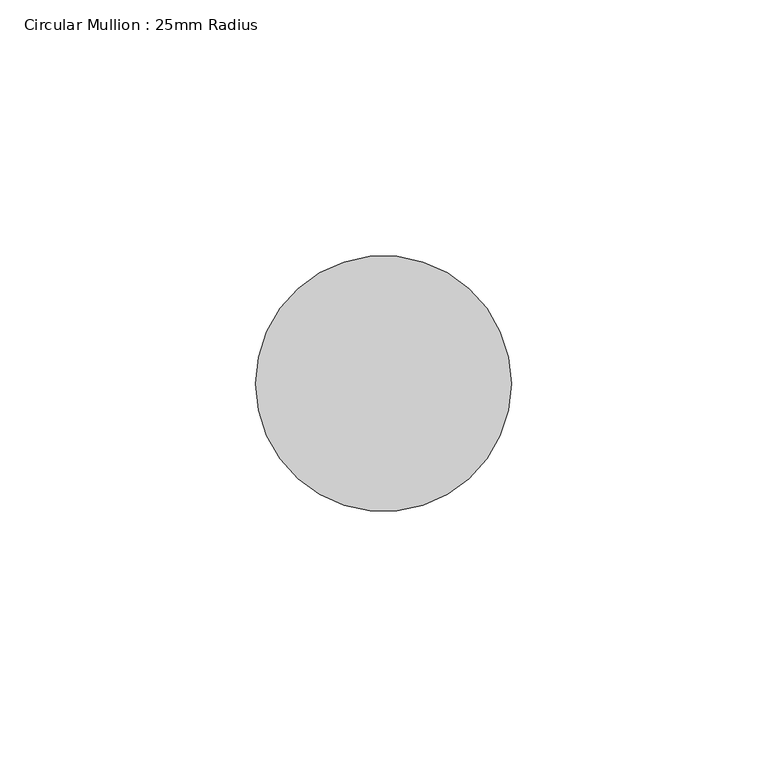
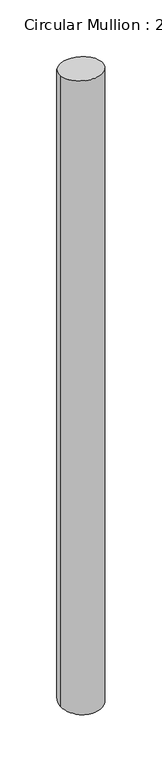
"""IFC4 building model written with IfcOpenShell, lengths in millimetres: member geometry, Circular Mullion : 25mm Radius."""

import ifcopenshell
import ifcopenshell.guid

model = None  # the IFC model being written
_history = None  # IfcOwnerHistory: only IFC2X3 demands one
_inside = {}  # id of a spatial element -> (the spatial element, [elements in it])
_under = {}  # id of a project, library or spatial element -> (it, [spatial elements below it])
_declared = {}  # id of a project -> (the project, [libraries it declares])
_typed = {}  # id of a type object -> (the type object, [elements of that type])
_made_of = {}  # id of a material, layer set ... -> (it, [elements and type objects made of it])


def new_model(schema):
    """Start an empty IFC model of exactly this schema.

    Asked for "IFC4X3", IfcOpenShell would pick the latest addendum, in which some entities
    have other attributes; the version numbers below select the first issue.
    IFC2X3 requires an IfcOwnerHistory on every rooted entity: one is made here for all.
    """
    global model, _history
    if schema == "IFC4X3":
        model = ifcopenshell.file(schema_version=(4, 3, 0, 0))
    else:
        model = ifcopenshell.file(schema=schema)
    _inside.clear()
    _under.clear()
    _declared.clear()
    _typed.clear()
    _made_of.clear()
    _history = None
    if model.schema == "IFC2X3":
        org = make("IfcOrganization", Name="unknown")
        user = make(
            "IfcPersonAndOrganization",
            ThePerson=make("IfcPerson", FamilyName="unknown"),
            TheOrganization=org,
        )
        app = make(
            "IfcApplication",
            ApplicationDeveloper=org,
            Version="unknown",
            ApplicationFullName="unknown",
            ApplicationIdentifier="unknown",
        )
        _history = make(
            "IfcOwnerHistory",
            OwningUser=user,
            OwningApplication=app,
            ChangeAction="ADDED",
            CreationDate=0,
        )
    return model


def make(cls, **values):
    """One entity of the class cls with the attributes given. An attribute that is None is left unset."""
    return model.create_entity(
        cls, **{name: value for name, value in values.items() if value is not None}
    )


def rooted(cls, **values):
    """An entity with a GlobalId (a new one), such as an element, a storey or a relation."""
    return make(cls, GlobalId=ifcopenshell.guid.new(), OwnerHistory=_history, **values)


def si_unit(unit_type, name, prefix=None):
    """IfcSIUnit, for example si_unit("LENGTHUNIT", "METRE", prefix="MILLI")."""
    return make("IfcSIUnit", UnitType=unit_type, Prefix=prefix, Name=name)


def assignment(units):
    """IfcUnitAssignment: the units of a project."""
    return None if units is None else make("IfcUnitAssignment", Units=units)


def point(xyz):
    """IfcCartesianPoint."""
    return None if xyz is None else make("IfcCartesianPoint", Coordinates=xyz)


def direction(xyz):
    """IfcDirection."""
    return None if xyz is None else make("IfcDirection", DirectionRatios=xyz)


def frame(location, z_axis=None, x_axis=None):
    """IfcAxis2Placement3D, a coordinate frame: its origin and axes. An axis left out is left unset."""
    return make(
        "IfcAxis2Placement3D",
        Location=point(location),
        Axis=direction(z_axis),
        RefDirection=direction(x_axis),
    )


def origin():
    """The frame at (0, 0, 0) with its axes left unset."""
    return frame((0.0, 0.0, 0.0))


def place(relative_to, where):
    """IfcLocalPlacement: puts the frame where relative to a parent placement (None: the world)."""
    return make(
        "IfcLocalPlacement", PlacementRelTo=relative_to, RelativePlacement=where
    )


def context(
    kind, dimensions, precision=None, world=None, true_north=None, identifier=None
):
    """IfcGeometricRepresentationContext, for example the 3D "Model" context."""
    return make(
        "IfcGeometricRepresentationContext",
        ContextIdentifier=identifier,
        ContextType=kind,
        CoordinateSpaceDimension=dimensions,
        Precision=precision,
        WorldCoordinateSystem=world,
        TrueNorth=true_north,
    )


def project(units=None, contexts=None):
    """IfcProject with its units and contexts."""
    return rooted(
        "IfcProject",
        Name="project",
        RepresentationContexts=contexts,
        UnitsInContext=assignment(units),
    )


def spatial(cls, under=None, at=None, **own):
    """A site, building, storey or space (cls), placed at a placement, below another one or the project."""
    s = rooted(cls, ObjectPlacement=at, **own)
    if under is not None:
        _under.setdefault(under.id(), (under, []))[1].append(s)
    return s


def ellipse_curve(where, semi_axis1, semi_axis2):
    """IfcEllipse in the frame where."""
    return make(
        "IfcEllipse", Position=where, SemiAxis1=semi_axis1, SemiAxis2=semi_axis2
    )


def shape(context_of_items, identifier, shape_type, items):
    """IfcShapeRepresentation: the items that make up one representation, for example the "Body"."""
    return make(
        "IfcShapeRepresentation",
        ContextOfItems=context_of_items,
        RepresentationIdentifier=identifier,
        RepresentationType=shape_type,
        Items=items,
    )


def source(mapping_origin, context_of_items, identifier, shape_type, items):
    """IfcRepresentationMap: a shape defined once, which mapped items show again and again."""
    return make(
        "IfcRepresentationMap",
        MappingOrigin=mapping_origin,
        MappedRepresentation=shape(context_of_items, identifier, shape_type, items),
    )


def transform(
    local_origin,
    x_axis=None,
    y_axis=None,
    z_axis=None,
    scale=None,
    scale2=None,
    scale3=None,
    uniform=True,
):
    """IfcCartesianTransformationOperator3D, or its non-uniform kind. x_axis, y_axis, z_axis: its Axis1, 2, 3."""
    if uniform:
        return make(
            "IfcCartesianTransformationOperator3D",
            Axis1=direction(x_axis),
            Axis2=direction(y_axis),
            LocalOrigin=point(local_origin),
            Scale=scale,
            Axis3=direction(z_axis),
        )
    return make(
        "IfcCartesianTransformationOperator3DnonUniform",
        Axis1=direction(x_axis),
        Axis2=direction(y_axis),
        LocalOrigin=point(local_origin),
        Scale=scale,
        Axis3=direction(z_axis),
        Scale2=scale2,
        Scale3=scale3,
    )


def mapped(mapping_source, mapping_target):
    """IfcMappedItem: shows the shape of a source again, moved by a transform."""
    return make(
        "IfcMappedItem", MappingSource=mapping_source, MappingTarget=mapping_target
    )


def made_of(thing, what):
    """Note that an element or type object is made of a material, layer set ...; save() writes the relation."""
    if what is not None:
        _made_of.setdefault(what.id(), (what, []))[1].append(thing)
    return thing


def element(
    cls,
    number,
    at=None,
    inside=None,
    cuts=None,
    type_object=None,
    material=None,
    context=None,
    identifier="Body",
    shape_type=None,
    held_by="IfcProductDefinitionShape",
    body=None,
    shapes=None,
    **own,
):
    """One element of the class cls, such as IfcWall. Its Tag is "e" and its number.

    at: its placement. inside: the storey or other place that contains it. cuts: it is an
    opening in that element (IfcRelVoidsElement). A single representation is given by context,
    identifier, shape_type and body (its items); several are given by shapes. held_by: the class
    of the entity that holds the representations. save() writes the other relations.
    """
    e = rooted(cls, Tag="e%d" % number, ObjectPlacement=at, **own)
    if body is not None:
        shapes = [shape(context, identifier, shape_type, body)]
    if shapes is not None:
        e.Representation = make(held_by, Representations=shapes)
    if inside is not None:
        _inside.setdefault(inside.id(), (inside, []))[1].append(e)
    if cuts is not None:
        rooted(
            "IfcRelVoidsElement", RelatingBuildingElement=cuts, RelatedOpeningElement=e
        )
    if type_object is not None:
        _typed.setdefault(type_object.id(), (type_object, []))[1].append(e)
    return made_of(e, material)


def aggregate(whole, parts):
    """IfcRelAggregates: a whole, such as a stair, and the parts it consists of."""
    return rooted("IfcRelAggregates", RelatingObject=whole, RelatedObjects=parts)


def save(model, path):
    """Write the relations noted so far, then the file.

    IfcRelAggregates (storeys below a building ...), IfcRelContainedInSpatialStructure (elements
    in a storey), IfcRelDefinesByType, IfcRelAssociatesMaterial and IfcRelDeclares: one each for
    every whole, place, type object, material and project.
    """
    for whole, parts in _under.values():
        aggregate(whole, parts)
    for where, things in _inside.values():
        rooted(
            "IfcRelContainedInSpatialStructure",
            RelatedElements=things,
            RelatingStructure=where,
        )
    for kind, things in _typed.values():
        rooted("IfcRelDefinesByType", RelatedObjects=things, RelatingType=kind)
    for what, things in _made_of.values():
        rooted("IfcRelAssociatesMaterial", RelatedObjects=things, RelatingMaterial=what)
    for by, libraries in _declared.values():
        rooted("IfcRelDeclares", RelatingContext=by, RelatedDefinitions=libraries)
    model.write(path)


def plane_surface(at):
    """IfcPlane: the flat surface through the origin of the frame at, square to its z axis."""
    return make("IfcPlane", Position=at)


def cylinder_surface(at, radius):
    """IfcCylindricalSurface: all points at the distance radius from the z axis of the frame at."""
    return make("IfcCylindricalSurface", Position=at, Radius=radius)


def advanced_brep(points, edges, surfaces, faces):
    """IfcAdvancedBrep: a solid bounded by faces that lie on surfaces and meet in shared edges.

    An edge is (start, end): straight between two places in points (the first is 0);
    or (start, end, curve); or (start, end, curve, False) where it runs against its curve.
    A face is (place in surfaces, loops), or (place, loops, False) where it looks against
    its surface's normal. A loop lists edges by number (the first is 1), with a minus sign
    where the edge is run from its end to its start. The first loop is the outer one.
    """
    corners = [point(p) for p in points]
    vertices = [make("IfcVertexPoint", VertexGeometry=c) for c in corners]
    made = []
    for start, end, *more in edges:
        made.append(
            make(
                "IfcEdgeCurve",
                EdgeStart=vertices[start],
                EdgeEnd=vertices[end],
                EdgeGeometry=more[0] if more else make("IfcPolyline", Points=[corners[start], corners[end]]),
                SameSense=more[1] if len(more) > 1 else True,
            )
        )
    hull = []
    for where, loops, *sense in faces:
        bounds = []
        for j, loop in enumerate(loops):
            ring = [make("IfcOrientedEdge", EdgeElement=made[abs(k) - 1], Orientation=k > 0) for k in loop]
            bounds.append(
                make(
                    "IfcFaceOuterBound" if j == 0 else "IfcFaceBound",
                    Bound=make("IfcEdgeLoop", EdgeList=ring),
                    Orientation=True,
                )
            )
        hull.append(make("IfcAdvancedFace", Bounds=bounds, FaceSurface=surfaces[where], SameSense=sense[0] if sense else True))
    return make("IfcAdvancedBrep", Outer=make("IfcClosedShell", CfsFaces=hull))


def circular_mullion_25mm_radius_00b6462a(model_context):
    return source(origin(), model_context, "Body", "AdvancedBrep", [
        advanced_brep(
        [(-50.0, 0.0, 0.0), (0.0, 0.0, 0.0), (0.0, 0.0, -800.0), (-50.0, 0.0, -800.0)],
        [
            (0, 1, ellipse_curve(frame((-25.0, 0.0, 0.0), z_axis=(0.0, -0.09733196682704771, -0.9952519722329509), x_axis=(0.0, -0.9952519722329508, 0.09733196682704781)), 25.119267, 25.0)),
            (1, 2),
            (2, 3, ellipse_curve(frame((-25.0, 0.0, -800.0), z_axis=(0.0, -0.09733196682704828, 0.9952519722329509), x_axis=(0.0, 0.995251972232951, 0.09733196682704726)), 25.119267, 25.0)),
            (3, 0),
            (1, 0, ellipse_curve(frame((-25.0, 0.0, 0.0), z_axis=(0.0, -0.09733196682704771, -0.9952519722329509), x_axis=(0.0, -0.9952519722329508, 0.09733196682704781)), 25.119267, 25.0)),
            (3, 2, ellipse_curve(frame((-25.0, 0.0, -800.0), z_axis=(0.0, -0.09733196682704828, 0.9952519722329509), x_axis=(0.0, 0.995251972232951, 0.09733196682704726)), 25.119267, 25.0)),
        ],
        [
            cylinder_surface(frame((-25.0, 0.0, 0.0), z_axis=(0.0, 0.0, 1.0), x_axis=(1.0, 0.0, 0.0)), 25.0),
            plane_surface(frame((-304.8, 0.0, 0.0), z_axis=(0.0, 0.09733196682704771, 0.9952519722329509), x_axis=(0.0, 0.9952519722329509, -0.09733196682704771))),
            plane_surface(frame((-304.8, 0.0, -800.0), z_axis=(0.0, 0.09733196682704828, -0.9952519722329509), x_axis=(0.0, 0.9952519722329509, 0.09733196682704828))),
        ],
        [
            (0, [[1, 2, 3, 4]]),
            (0, [[5, -4, 6, -2]]),
            (1, [[-1, -5]]),
            (2, [[-6, -3]]),
        ],
    ),
    ])


if __name__ == "__main__":
    model = new_model("IFC4")
    model_context = context("Model", 3, world=origin())
    ifc_project = project(units=[si_unit("LENGTHUNIT", "METRE", prefix="MILLI")], contexts=[model_context])
    site = spatial("IfcSite", under=ifc_project)
    building = spatial("IfcBuilding", under=site)
    placement = place(None, origin())
    circular_mullion_25mm_radius_shape = circular_mullion_25mm_radius_00b6462a(model_context)
    element("IfcMember", 1, ObjectType="Circular Mullion : 25mm Radius", at=placement, inside=building, context=model_context, shape_type="MappedRepresentation", body=[
        mapped(circular_mullion_25mm_radius_shape, transform((0.0, 0.0, 0.0), x_axis=(1.0, 0.0, 0.0), y_axis=(0.0, 1.0, 0.0), z_axis=(0.0, 0.0, 1.0))),
    ])
    save(model, "model.ifc")
